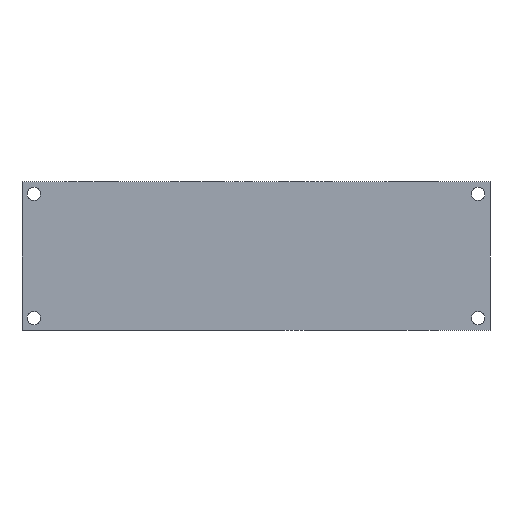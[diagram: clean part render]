
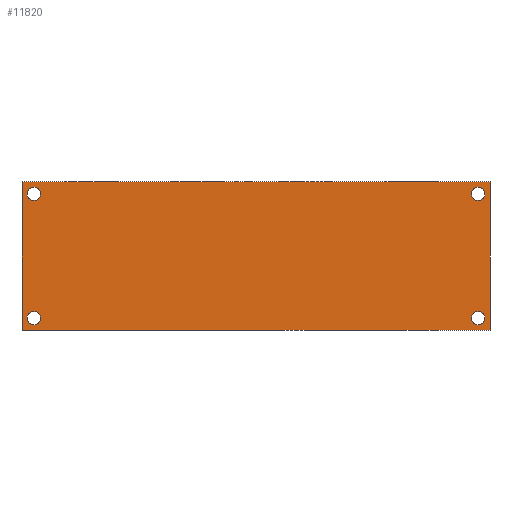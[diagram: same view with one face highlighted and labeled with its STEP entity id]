
A CAD part, front view. The second image highlights one B-rep face of the part: STEP entity #11820.
In plain terms, the highlighted planar face has unit normal (0, -1, 0).
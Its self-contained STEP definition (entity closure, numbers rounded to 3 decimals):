
#74 = CARTESIAN_POINT ( 'NONE',  ( 8., -25., 46.5 ) ) ;
#409 = DIRECTION ( 'NONE',  ( 0., 0., 1. ) ) ;
#467 = ORIENTED_EDGE ( 'NONE', *, *, #11626, .T. ) ;
#502 = DIRECTION ( 'NONE',  ( 0., 0., 1. ) ) ;
#561 = CARTESIAN_POINT ( 'NONE',  ( 308., -25., 46.5 ) ) ;
#618 = FACE_OUTER_BOUND ( 'NONE', #5074, .T. ) ;
#654 = CARTESIAN_POINT ( 'NONE',  ( 308., -25., -46.5 ) ) ;
#854 = EDGE_CURVE ( 'NONE', #2521, #11829, #9409, .T. ) ;
#935 = DIRECTION ( 'NONE',  ( 0., 1., 0. ) ) ;
#960 = CIRCLE ( 'NONE', #13015, 4.5 ) ;
#1109 = ORIENTED_EDGE ( 'NONE', *, *, #10006, .T. ) ;
#1110 = ORIENTED_EDGE ( 'NONE', *, *, #6581, .T. ) ;
#1381 = AXIS2_PLACEMENT_3D ( 'NONE', #12906, #6653, #409 ) ;
#1387 = LINE ( 'NONE', #4686, #3876 ) ;
#1434 = ORIENTED_EDGE ( 'NONE', *, *, #11702, .T. ) ;
#2021 = CARTESIAN_POINT ( 'NONE',  ( 8., -25., 42. ) ) ;
#2132 = VERTEX_POINT ( 'NONE', #654 ) ;
#2203 = VERTEX_POINT ( 'NONE', #74 ) ;
#2352 = CIRCLE ( 'NONE', #1381, 4.5 ) ;
#2366 = EDGE_CURVE ( 'NONE', #5911, #8729, #10760, .T. ) ;
#2390 = ORIENTED_EDGE ( 'NONE', *, *, #3000, .T. ) ;
#2466 = CARTESIAN_POINT ( 'NONE',  ( 308., -25., -42. ) ) ;
#2521 = VERTEX_POINT ( 'NONE', #8303 ) ;
#2522 = CARTESIAN_POINT ( 'NONE',  ( 0., -25., 50. ) ) ;
#2540 = ORIENTED_EDGE ( 'NONE', *, *, #11477, .T. ) ;
#2814 = CARTESIAN_POINT ( 'NONE',  ( 8., -25., 37.5 ) ) ;
#2917 = CARTESIAN_POINT ( 'NONE',  ( 308., -25., 42. ) ) ;
#3000 = EDGE_CURVE ( 'NONE', #8729, #5911, #9324, .T. ) ;
#3078 = DIRECTION ( 'NONE',  ( 0., 0., 1. ) ) ;
#3383 = FACE_BOUND ( 'NONE', #4915, .T. ) ;
#3536 = DIRECTION ( 'NONE',  ( 0., 0., 1. ) ) ;
#3566 = ORIENTED_EDGE ( 'NONE', *, *, #2366, .T. ) ;
#3876 = VECTOR ( 'NONE', #4733, 1000. ) ;
#3945 = AXIS2_PLACEMENT_3D ( 'NONE', #2917, #10155, #3999 ) ;
#3988 = VERTEX_POINT ( 'NONE', #2522 ) ;
#3999 = DIRECTION ( 'NONE',  ( 0., 0., 1. ) ) ;
#4030 = LINE ( 'NONE', #4511, #4682 ) ;
#4034 = CIRCLE ( 'NONE', #3945, 4.5 ) ;
#4461 = CARTESIAN_POINT ( 'NONE',  ( 8., -25., -42. ) ) ;
#4500 = DIRECTION ( 'NONE',  ( 0., 1., 0. ) ) ;
#4511 = CARTESIAN_POINT ( 'NONE',  ( 316., -25., 50. ) ) ;
#4545 = DIRECTION ( 'NONE',  ( 0., 0., 1. ) ) ;
#4624 = VERTEX_POINT ( 'NONE', #9145 ) ;
#4682 = VECTOR ( 'NONE', #10694, 1000. ) ;
#4686 = CARTESIAN_POINT ( 'NONE',  ( 0., -25., 50. ) ) ;
#4733 = DIRECTION ( 'NONE',  ( 0., 0., -1. ) ) ;
#4915 = EDGE_LOOP ( 'NONE', ( #6666, #5225 ) ) ;
#5032 = VECTOR ( 'NONE', #11677, 1000. ) ;
#5074 = EDGE_LOOP ( 'NONE', ( #10651, #5484, #11680, #467 ) ) ;
#5138 = DIRECTION ( 'NONE',  ( -1., 0., 0. ) ) ;
#5225 = ORIENTED_EDGE ( 'NONE', *, *, #12938, .T. ) ;
#5312 = CARTESIAN_POINT ( 'NONE',  ( 8., -25., -42. ) ) ;
#5360 = DIRECTION ( 'NONE',  ( 0., 1., 0. ) ) ;
#5371 = EDGE_LOOP ( 'NONE', ( #2540, #1110 ) ) ;
#5378 = DIRECTION ( 'NONE',  ( 0., 0., 1. ) ) ;
#5484 = ORIENTED_EDGE ( 'NONE', *, *, #854, .F. ) ;
#5545 = EDGE_LOOP ( 'NONE', ( #1109, #1434 ) ) ;
#5591 = CARTESIAN_POINT ( 'NONE',  ( 316., -25., -50. ) ) ;
#5814 = AXIS2_PLACEMENT_3D ( 'NONE', #5312, #5360, #5378 ) ;
#5872 = DIRECTION ( 'NONE',  ( 0., 1., 0. ) ) ;
#5911 = VERTEX_POINT ( 'NONE', #13116 ) ;
#6276 = CARTESIAN_POINT ( 'NONE',  ( 308., -25., 37.5 ) ) ;
#6357 = AXIS2_PLACEMENT_3D ( 'NONE', #4461, #4500, #4545 ) ;
#6503 = FACE_BOUND ( 'NONE', #5545, .T. ) ;
#6514 = CARTESIAN_POINT ( 'NONE',  ( 316., -25., 50. ) ) ;
#6581 = EDGE_CURVE ( 'NONE', #12471, #2203, #960, .T. ) ;
#6653 = DIRECTION ( 'NONE',  ( 0., 1., 0. ) ) ;
#6666 = ORIENTED_EDGE ( 'NONE', *, *, #9300, .T. ) ;
#6740 = DIRECTION ( 'NONE',  ( 0., 1., 0. ) ) ;
#7206 = CARTESIAN_POINT ( 'NONE',  ( 8., -25., 42. ) ) ;
#7295 = VERTEX_POINT ( 'NONE', #6276 ) ;
#7873 = CARTESIAN_POINT ( 'NONE',  ( 316., -25., 50. ) ) ;
#7923 = CARTESIAN_POINT ( 'NONE',  ( 0., -25., -50. ) ) ;
#7991 = VERTEX_POINT ( 'NONE', #10563 ) ;
#8177 = DIRECTION ( 'NONE',  ( 0., 0., 1. ) ) ;
#8303 = CARTESIAN_POINT ( 'NONE',  ( 316., -25., -50. ) ) ;
#8729 = VERTEX_POINT ( 'NONE', #9069 ) ;
#9069 = CARTESIAN_POINT ( 'NONE',  ( 8., -25., -46.5 ) ) ;
#9089 = EDGE_CURVE ( 'NONE', #3988, #11829, #1387, .T. ) ;
#9145 = CARTESIAN_POINT ( 'NONE',  ( 308., -25., -37.5 ) ) ;
#9258 = DIRECTION ( 'NONE',  ( 0., 1., 0. ) ) ;
#9300 = EDGE_CURVE ( 'NONE', #9543, #7295, #4034, .T. ) ;
#9324 = CIRCLE ( 'NONE', #6357, 4.5 ) ;
#9409 = LINE ( 'NONE', #5591, #10259 ) ;
#9455 = CIRCLE ( 'NONE', #11093, 4.5 ) ;
#9489 = FACE_BOUND ( 'NONE', #5371, .T. ) ;
#9543 = VERTEX_POINT ( 'NONE', #561 ) ;
#9685 = DIRECTION ( 'NONE',  ( 0., 1., 0. ) ) ;
#9826 = CIRCLE ( 'NONE', #12386, 4.5 ) ;
#10006 = EDGE_CURVE ( 'NONE', #4624, #2132, #2352, .T. ) ;
#10155 = DIRECTION ( 'NONE',  ( 0., 1., 0. ) ) ;
#10259 = VECTOR ( 'NONE', #5138, 1000. ) ;
#10544 = EDGE_LOOP ( 'NONE', ( #3566, #2390 ) ) ;
#10563 = CARTESIAN_POINT ( 'NONE',  ( 316., -25., 50. ) ) ;
#10651 = ORIENTED_EDGE ( 'NONE', *, *, #9089, .T. ) ;
#10694 = DIRECTION ( 'NONE',  ( 0., 0., -1. ) ) ;
#10760 = CIRCLE ( 'NONE', #5814, 4.5 ) ;
#10860 = LINE ( 'NONE', #6514, #5032 ) ;
#11093 = AXIS2_PLACEMENT_3D ( 'NONE', #12984, #6740, #502 ) ;
#11477 = EDGE_CURVE ( 'NONE', #2203, #12471, #13214, .T. ) ;
#11626 = EDGE_CURVE ( 'NONE', #7991, #3988, #10860, .T. ) ;
#11677 = DIRECTION ( 'NONE',  ( -1., 0., 0. ) ) ;
#11680 = ORIENTED_EDGE ( 'NONE', *, *, #12890, .F. ) ;
#11702 = EDGE_CURVE ( 'NONE', #2132, #4624, #9826, .T. ) ;
#11820 = ADVANCED_FACE ( 'NONE', ( #12022, #6503, #3383, #9489, #618 ), #13119, .F. ) ;
#11829 = VERTEX_POINT ( 'NONE', #7923 ) ;
#12022 = FACE_BOUND ( 'NONE', #10544, .T. ) ;
#12255 = AXIS2_PLACEMENT_3D ( 'NONE', #7873, #5872, #13164 ) ;
#12386 = AXIS2_PLACEMENT_3D ( 'NONE', #2466, #9685, #3536 ) ;
#12471 = VERTEX_POINT ( 'NONE', #2814 ) ;
#12683 = AXIS2_PLACEMENT_3D ( 'NONE', #2021, #9258, #3078 ) ;
#12890 = EDGE_CURVE ( 'NONE', #7991, #2521, #4030, .T. ) ;
#12906 = CARTESIAN_POINT ( 'NONE',  ( 308., -25., -42. ) ) ;
#12938 = EDGE_CURVE ( 'NONE', #7295, #9543, #9455, .T. ) ;
#12984 = CARTESIAN_POINT ( 'NONE',  ( 308., -25., 42. ) ) ;
#13015 = AXIS2_PLACEMENT_3D ( 'NONE', #7206, #935, #8177 ) ;
#13116 = CARTESIAN_POINT ( 'NONE',  ( 8., -25., -37.5 ) ) ;
#13119 = PLANE ( 'NONE',  #12255 ) ;
#13164 = DIRECTION ( 'NONE',  ( 0., 0., 1. ) ) ;
#13214 = CIRCLE ( 'NONE', #12683, 4.5 ) ;
